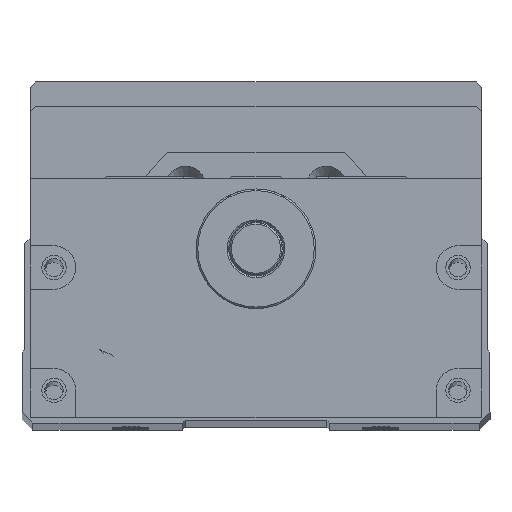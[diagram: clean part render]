
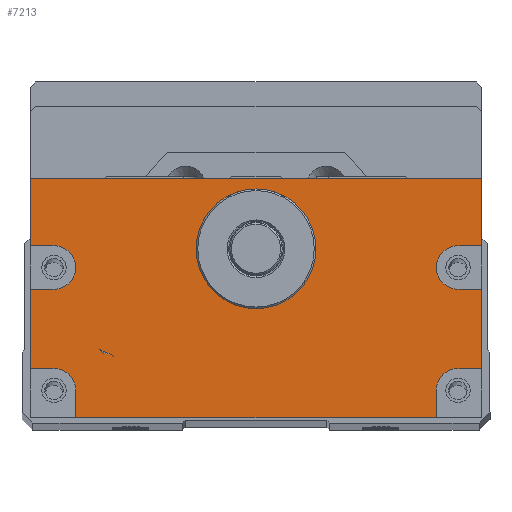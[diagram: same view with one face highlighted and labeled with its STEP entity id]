
A CAD part, top view. The second image highlights one B-rep face of the part: STEP entity #7213.
In plain terms, the highlighted planar face has unit normal (0, 0, 1).
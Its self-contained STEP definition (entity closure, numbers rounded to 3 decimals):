
#617=LINE('',#28568,#1295);
#619=LINE('',#28572,#1297);
#620=LINE('',#28575,#1298);
#621=LINE('',#28577,#1299);
#622=LINE('',#28581,#1300);
#623=LINE('',#28583,#1301);
#624=LINE('',#28584,#1302);
#625=LINE('',#28586,#1303);
#626=LINE('',#28590,#1304);
#627=LINE('',#28592,#1305);
#628=LINE('',#28594,#1306);
#629=LINE('',#28598,#1307);
#630=LINE('',#28600,#1308);
#631=LINE('',#28602,#1309);
#1295=VECTOR('',#17021,1.);
#1297=VECTOR('',#17025,1.);
#1298=VECTOR('',#17026,1.);
#1299=VECTOR('',#17027,1.);
#1300=VECTOR('',#17030,1.);
#1301=VECTOR('',#17031,1.);
#1302=VECTOR('',#17032,1.);
#1303=VECTOR('',#17033,1.);
#1304=VECTOR('',#17036,1.);
#1305=VECTOR('',#17037,1.);
#1306=VECTOR('',#17038,1.);
#1307=VECTOR('',#17041,1.);
#1308=VECTOR('',#17042,1.);
#1309=VECTOR('',#17043,1.);
#7213=ADVANCED_FACE('',(#8116,#8117),#7716,.T.);
#7716=PLANE('',#15476);
#8116=FACE_BOUND('',#8736,.T.);
#8117=FACE_BOUND('',#8737,.T.);
#8736=EDGE_LOOP('',(#10260,#10261,#10262,#10263,#10264,#10265,#10266,#10267,
#10268,#10269,#10270,#10271,#10272,#10273,#10274,#10275,#10276,#10277));
#8737=EDGE_LOOP('',(#10278));
#10260=ORIENTED_EDGE('',*,*,#13728,.F.);
#10261=ORIENTED_EDGE('',*,*,#13729,.T.);
#10262=ORIENTED_EDGE('',*,*,#13730,.F.);
#10263=ORIENTED_EDGE('',*,*,#13731,.F.);
#10264=ORIENTED_EDGE('',*,*,#13732,.F.);
#10265=ORIENTED_EDGE('',*,*,#13733,.T.);
#10266=ORIENTED_EDGE('',*,*,#13726,.T.);
#10267=ORIENTED_EDGE('',*,*,#13734,.T.);
#10268=ORIENTED_EDGE('',*,*,#13735,.F.);
#10269=ORIENTED_EDGE('',*,*,#13736,.F.);
#10270=ORIENTED_EDGE('',*,*,#13737,.F.);
#10271=ORIENTED_EDGE('',*,*,#13738,.T.);
#10272=ORIENTED_EDGE('',*,*,#13739,.F.);
#10273=ORIENTED_EDGE('',*,*,#13740,.F.);
#10274=ORIENTED_EDGE('',*,*,#13741,.F.);
#10275=ORIENTED_EDGE('',*,*,#13742,.T.);
#10276=ORIENTED_EDGE('',*,*,#13743,.F.);
#10277=ORIENTED_EDGE('',*,*,#13744,.F.);
#10278=ORIENTED_EDGE('',*,*,#13712,.T.);
#12548=VERTEX_POINT('',#28539);
#12561=VERTEX_POINT('',#28567);
#12562=VERTEX_POINT('',#28569);
#12563=VERTEX_POINT('',#28573);
#12564=VERTEX_POINT('',#28574);
#12565=VERTEX_POINT('',#28576);
#12566=VERTEX_POINT('',#28578);
#12567=VERTEX_POINT('',#28580);
#12568=VERTEX_POINT('',#28582);
#12569=VERTEX_POINT('',#28585);
#12570=VERTEX_POINT('',#28587);
#12571=VERTEX_POINT('',#28589);
#12572=VERTEX_POINT('',#28591);
#12573=VERTEX_POINT('',#28593);
#12574=VERTEX_POINT('',#28595);
#12575=VERTEX_POINT('',#28597);
#12576=VERTEX_POINT('',#28599);
#12577=VERTEX_POINT('',#28601);
#12578=VERTEX_POINT('',#28603);
#13712=EDGE_CURVE('',#12548,#12548,#14845,.T.);
#13726=EDGE_CURVE('',#12562,#12561,#617,.T.);
#13728=EDGE_CURVE('',#12563,#12564,#619,.T.);
#13729=EDGE_CURVE('',#12563,#12565,#620,.T.);
#13730=EDGE_CURVE('',#12566,#12565,#621,.T.);
#13731=EDGE_CURVE('',#12567,#12566,#14854,.T.);
#13732=EDGE_CURVE('',#12568,#12567,#622,.T.);
#13733=EDGE_CURVE('',#12568,#12562,#623,.T.);
#13734=EDGE_CURVE('',#12561,#12569,#624,.T.);
#13735=EDGE_CURVE('',#12570,#12569,#625,.T.);
#13736=EDGE_CURVE('',#12571,#12570,#14855,.T.);
#13737=EDGE_CURVE('',#12572,#12571,#626,.T.);
#13738=EDGE_CURVE('',#12572,#12573,#627,.T.);
#13739=EDGE_CURVE('',#12574,#12573,#628,.T.);
#13740=EDGE_CURVE('',#12575,#12574,#14856,.T.);
#13741=EDGE_CURVE('',#12576,#12575,#629,.T.);
#13742=EDGE_CURVE('',#12576,#12577,#630,.T.);
#13743=EDGE_CURVE('',#12578,#12577,#631,.T.);
#13744=EDGE_CURVE('',#12564,#12578,#14857,.T.);
#14845=CIRCLE('',#15460,11.);
#14854=CIRCLE('',#15472,4.);
#14855=CIRCLE('',#15473,4.);
#14856=CIRCLE('',#15474,4.);
#14857=CIRCLE('',#15475,4.);
#15460=AXIS2_PLACEMENT_3D('',#28538,#16994,#16995);
#15472=AXIS2_PLACEMENT_3D('',#28579,#17028,#17029);
#15473=AXIS2_PLACEMENT_3D('',#28588,#17034,#17035);
#15474=AXIS2_PLACEMENT_3D('',#28596,#17039,#17040);
#15475=AXIS2_PLACEMENT_3D('',#28604,#17044,#17045);
#15476=AXIS2_PLACEMENT_3D('',#28605,#17046,#17047);
#16994=DIRECTION('',(0.,0.,-1.));
#16995=DIRECTION('',(1.,0.,0.));
#17021=DIRECTION('',(-1.,0.,0.));
#17025=DIRECTION('',(-1.,0.,0.));
#17026=DIRECTION('',(0.,1.,0.));
#17027=DIRECTION('',(1.,0.,0.));
#17028=DIRECTION('',(0.,0.,1.));
#17029=DIRECTION('',(1.,0.,0.));
#17030=DIRECTION('',(-1.,0.,0.));
#17031=DIRECTION('',(0.,1.,0.));
#17032=DIRECTION('',(0.,-1.,0.));
#17033=DIRECTION('',(-1.,0.,0.));
#17034=DIRECTION('',(0.,0.,1.));
#17035=DIRECTION('',(1.,0.,0.));
#17036=DIRECTION('',(1.,0.,0.));
#17037=DIRECTION('',(0.,-1.,0.));
#17038=DIRECTION('',(-1.,0.,0.));
#17039=DIRECTION('',(0.,0.,1.));
#17040=DIRECTION('',(1.,0.,0.));
#17041=DIRECTION('',(0.,1.,0.));
#17042=DIRECTION('',(1.,0.,0.));
#17043=DIRECTION('',(0.,-1.,0.));
#17044=DIRECTION('',(0.,0.,1.));
#17045=DIRECTION('',(1.,0.,0.));
#17046=DIRECTION('',(0.,0.,1.));
#17047=DIRECTION('',(1.,0.,0.));
#28538=CARTESIAN_POINT('',(150.,0.,582.5));
#28539=CARTESIAN_POINT('',(161.,0.,582.5));
#28567=CARTESIAN_POINT('',(108.5,13.,582.5));
#28568=CARTESIAN_POINT('',(191.5,13.,582.5));
#28569=CARTESIAN_POINT('',(191.5,13.,582.5));
#28572=CARTESIAN_POINT('',(191.5,-22.,582.5));
#28573=CARTESIAN_POINT('',(191.5,-22.,582.5));
#28574=CARTESIAN_POINT('',(187.115,-22.,582.5));
#28575=CARTESIAN_POINT('',(191.5,-31.,582.5));
#28576=CARTESIAN_POINT('',(191.5,-7.431,582.5));
#28577=CARTESIAN_POINT('',(191.5,-7.431,582.5));
#28578=CARTESIAN_POINT('',(187.115,-7.431,582.5));
#28579=CARTESIAN_POINT('',(187.115,-3.431,582.5));
#28580=CARTESIAN_POINT('',(187.115,0.569,582.5));
#28581=CARTESIAN_POINT('',(191.5,0.569,582.5));
#28582=CARTESIAN_POINT('',(191.5,0.569,582.5));
#28583=CARTESIAN_POINT('',(191.5,-31.,582.5));
#28584=CARTESIAN_POINT('',(108.5,27.5,582.5));
#28585=CARTESIAN_POINT('',(108.5,0.569,582.5));
#28586=CARTESIAN_POINT('',(191.5,0.569,582.5));
#28587=CARTESIAN_POINT('',(112.885,0.569,582.5));
#28588=CARTESIAN_POINT('',(112.885,-3.431,582.5));
#28589=CARTESIAN_POINT('',(112.885,-7.431,582.5));
#28590=CARTESIAN_POINT('',(191.5,-7.431,582.5));
#28591=CARTESIAN_POINT('',(108.5,-7.431,582.5));
#28592=CARTESIAN_POINT('',(108.5,27.5,582.5));
#28593=CARTESIAN_POINT('',(108.5,-22.,582.5));
#28594=CARTESIAN_POINT('',(191.5,-22.,582.5));
#28595=CARTESIAN_POINT('',(112.885,-22.,582.5));
#28596=CARTESIAN_POINT('',(112.885,-26.,582.5));
#28597=CARTESIAN_POINT('',(116.885,-26.,582.5));
#28598=CARTESIAN_POINT('',(116.885,-31.,582.5));
#28599=CARTESIAN_POINT('',(116.885,-31.,582.5));
#28600=CARTESIAN_POINT('',(108.5,-31.,582.5));
#28601=CARTESIAN_POINT('',(183.115,-31.,582.5));
#28602=CARTESIAN_POINT('',(183.115,-31.,582.5));
#28603=CARTESIAN_POINT('',(183.115,-26.,582.5));
#28604=CARTESIAN_POINT('',(187.115,-26.,582.5));
#28605=CARTESIAN_POINT('',(191.5,-31.,582.5));
